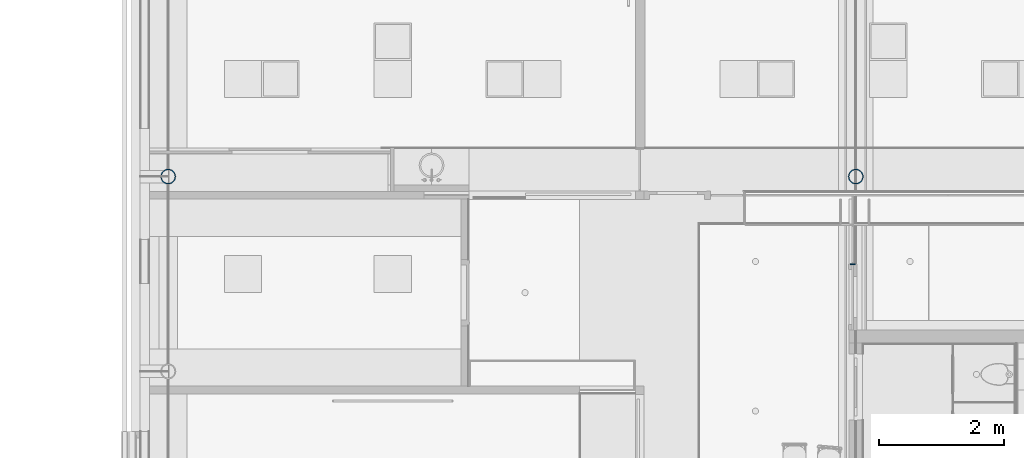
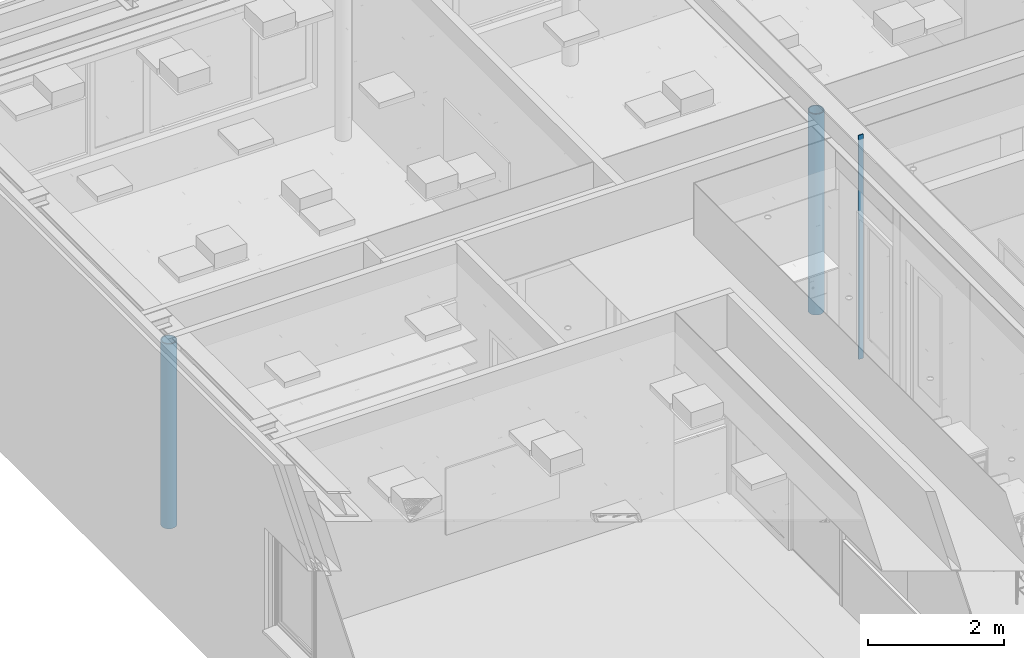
# One storey, part 12 of 260: 3 columns.
"""IFC2X3 building model written with IfcOpenShell, lengths in millimetres."""

from ifc_helpers import new_model, entity, si_unit, converted_unit, derived_unit, money_unit, direction, frame, origin_with_axes, place, context, subcontext, project, spatial, faceted_brep, material, type_object, element, save


model = new_model("IFC2X3")

# Units and contexts
model_context = context("Model", 3, precision=0.01, world=origin_with_axes(), true_north=direction((0.0, 1.0)))
plan_context = context("Plan", 3, precision=0.01, world=origin_with_axes(), true_north=direction((0.0, 1.0)))
body_context = subcontext(model_context, "Body", "Model", "MODEL_VIEW")
ifc_project = project(units=[si_unit("LENGTHUNIT", "METRE", prefix="MILLI"), si_unit("AREAUNIT", "SQUARE_METRE"), si_unit("VOLUMEUNIT", "CUBIC_METRE"), converted_unit("PLANEANGLEUNIT", "DEGREE", entity("IfcPlaneAngleMeasure", 0.0174532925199), si_unit("PLANEANGLEUNIT", "RADIAN"), dimensions=[0, 0, 0, 0, 0, 0, 0]), money_unit("EUR"), converted_unit("TIMEUNIT", "Year", entity("IfcTimeMeasure", 31556926.0), si_unit("TIMEUNIT", "SECOND"), dimensions=[0, 0, 1, 0, 0, 0, 0]), si_unit("MASSUNIT", "GRAM", prefix="KILO"), si_unit("THERMODYNAMICTEMPERATUREUNIT", "DEGREE_CELSIUS"), si_unit("LUMINOUSINTENSITYUNIT", "LUMEN"), si_unit("ENERGYUNIT", "JOULE", prefix="MEGA"), derived_unit("THERMALCONDUCTANCEUNIT", [(si_unit("POWERUNIT", "WATT"), 1), (si_unit("LENGTHUNIT", "METRE"), -1), (si_unit("THERMODYNAMICTEMPERATUREUNIT", "KELVIN"), -1)]), derived_unit("SPECIFICHEATCAPACITYUNIT", [(si_unit("ENERGYUNIT", "JOULE"), 1), (si_unit("MASSUNIT", "GRAM", prefix="KILO"), -1), (si_unit("THERMODYNAMICTEMPERATUREUNIT", "KELVIN"), -1)]), derived_unit("MASSDENSITYUNIT", [(si_unit("MASSUNIT", "GRAM", prefix="KILO"), 1), (si_unit("VOLUMEUNIT", "CUBIC_METRE"), -1)])], contexts=[model_context, plan_context])

# Site, building, storey
site_placement = place(None, origin_with_axes())
site = spatial("IfcSite", under=ifc_project, at=site_placement, Name="Site", CompositionType="ELEMENT")
building_placement = place(site_placement, origin_with_axes())
building = spatial("IfcBuilding", under=site, at=building_placement, Name="Naam gebouw", CompositionType="ELEMENT")
storey_placement = place(building_placement, frame((0.0, 0.0, 3960.0), z_axis=(0.0, 0.0, 1.0), x_axis=(1.0, 0.0, 0.0)))
storey = spatial("IfcBuildingStorey", under=building, at=storey_placement, Name="verdieping", CompositionType="ELEMENT", Elevation=3960.0)

# Columns
ifc_material = material(Name="Metaal - Staal C wit")
column_type_1 = type_object("IfcColumnType", Name="Lucht D245", PredefinedType="COLUMN")
column_1_placement = place(storey_placement, frame((35605.0, 39325.0, -80.0), z_axis=(0.0, 0.0, 1.0), x_axis=(1.0, 0.0, 0.0)))
element("IfcColumn", 1, at=column_1_placement, inside=storey, type_object=column_type_1, material=ifc_material, Name="28_kolom ø 273mm", ObjectType="COLUMN", context=body_context, shape_type="Brep", body=[
    faceted_brep([(119.184937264, 27.2031841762, 0.0), (110.143444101, 53.0422871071, 0.0), (110.143444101, 53.0422871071, 3620.0), (119.184937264, 27.2031841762, 3620.0), (122.25, 0.0, 0.0), (119.184937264, -27.2031841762, 0.0), (110.143444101, -53.0422871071, 0.0), (95.5788987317, -76.2216282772, 0.0), (76.2216282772, -95.5788987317, 0.0), (53.0422871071, -110.143444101, 0.0), (27.2031841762, -119.184937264, 0.0), (0.0, -122.25, 0.0), (-27.2031841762, -119.184937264, 0.0), (-53.0422871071, -110.143444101, 0.0), (-76.2216282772, -95.5788987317, 0.0), (-95.5788987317, -76.2216282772, 0.0), (-110.143444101, -53.0422871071, 0.0), (-119.184937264, -27.2031841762, 0.0), (-122.25, 0.0, 0.0), (-119.184937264, 27.2031841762, 0.0), (-110.143444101, 53.0422871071, 0.0), (-95.5788987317, 76.2216282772, 0.0), (-76.2216282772, 95.5788987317, 0.0), (-53.0422871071, 110.143444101, 0.0), (-27.2031841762, 119.184937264, 0.0), (0.0, 122.25, 0.0), (27.2031841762, 119.184937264, 0.0), (53.0422871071, 110.143444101, 0.0), (76.2216282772, 95.5788987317, 0.0), (95.5788987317, 76.2216282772, 0.0), (102.629619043, -27.4995235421, 0.0), (106.25, 0.0, 0.0), (102.629619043, 27.4995235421, 0.0), (92.0151991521, 53.125, 0.0), (75.1300955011, 75.1300955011, 0.0), (53.125, 92.0151991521, 0.0), (27.4995235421, 102.629619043, 0.0), (0.0, 106.25, 0.0), (-27.4995235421, 102.629619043, 0.0), (-53.125, 92.0151991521, 0.0), (-75.1300955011, 75.1300955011, 0.0), (-92.0151991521, 53.125, 0.0), (-102.629619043, 27.4995235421, 0.0), (-106.25, 0.0, 0.0), (-102.629619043, -27.4995235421, 0.0), (-92.0151991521, -53.125, 0.0), (-75.1300955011, -75.1300955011, 0.0), (-53.125, -92.0151991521, 0.0), (-27.4995235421, -102.629619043, 0.0), (0.0, -106.25, 0.0), (27.4995235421, -102.629619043, 0.0), (53.125, -92.0151991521, 0.0), (75.1300955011, -75.1300955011, 0.0), (92.0151991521, -53.125, 0.0), (95.5788987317, 76.2216282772, 3620.0), (76.2216282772, 95.5788987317, 3620.0), (53.0422871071, 110.143444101, 3620.0), (27.2031841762, 119.184937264, 3620.0), (0.0, 122.25, 3620.0), (-27.2031841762, 119.184937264, 3620.0), (-53.0422871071, 110.143444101, 3620.0), (-76.2216282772, 95.5788987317, 3620.0), (-95.5788987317, 76.2216282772, 3620.0), (-110.143444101, 53.0422871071, 3620.0), (-119.184937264, 27.2031841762, 3620.0), (-122.25, 0.0, 3620.0), (-119.184937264, -27.2031841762, 3620.0), (-110.143444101, -53.0422871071, 3620.0), (-95.5788987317, -76.2216282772, 3620.0), (-76.2216282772, -95.5788987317, 3620.0), (-53.0422871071, -110.143444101, 3620.0), (-27.2031841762, -119.184937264, 3620.0), (0.0, -122.25, 3620.0), (27.2031841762, -119.184937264, 3620.0), (53.0422871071, -110.143444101, 3620.0), (76.2216282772, -95.5788987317, 3620.0), (95.5788987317, -76.2216282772, 3620.0), (110.143444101, -53.0422871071, 3620.0), (119.184937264, -27.2031841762, 3620.0), (122.25, 0.0, 3620.0), (102.629619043, -27.4995235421, 3620.0), (92.0151991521, -53.125, 3620.0), (75.1300955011, -75.1300955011, 3620.0), (53.125, -92.0151991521, 3620.0), (27.4995235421, -102.629619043, 3620.0), (0.0, -106.25, 3620.0), (-27.4995235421, -102.629619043, 3620.0), (-53.125, -92.0151991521, 3620.0), (-75.1300955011, -75.1300955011, 3620.0), (-92.0151991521, -53.125, 3620.0), (-102.629619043, -27.4995235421, 3620.0), (-106.25, 0.0, 3620.0), (-102.629619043, 27.4995235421, 3620.0), (-92.0151991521, 53.125, 3620.0), (-75.1300955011, 75.1300955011, 3620.0), (-53.125, 92.0151991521, 3620.0), (-27.4995235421, 102.629619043, 3620.0), (0.0, 106.25, 3620.0), (27.4995235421, 102.629619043, 3620.0), (53.125, 92.0151991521, 3620.0), (75.1300955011, 75.1300955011, 3620.0), (92.0151991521, 53.125, 3620.0), (102.629619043, 27.4995235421, 3620.0), (106.25, 0.0, 3620.0)], [[[0, 1, 2, 3]], [[0, 4, 5, 6, 7, 8, 9, 10, 11, 12, 13, 14, 15, 16, 17, 18, 19, 20, 21, 22, 23, 24, 25, 26, 27, 28, 29, 1], [30, 31, 32, 33, 34, 35, 36, 37, 38, 39, 40, 41, 42, 43, 44, 45, 46, 47, 48, 49, 50, 51, 52, 53]], [[1, 29, 54, 2]], [[3, 2, 54, 55, 56, 57, 58, 59, 60, 61, 62, 63, 64, 65, 66, 67, 68, 69, 70, 71, 72, 73, 74, 75, 76, 77, 78, 79], [80, 81, 82, 83, 84, 85, 86, 87, 88, 89, 90, 91, 92, 93, 94, 95, 96, 97, 98, 99, 100, 101, 102, 103]], [[4, 0, 3, 79]], [[5, 4, 79, 78]], [[6, 5, 78, 77]], [[7, 6, 77, 76]], [[8, 7, 76, 75]], [[9, 8, 75, 74]], [[10, 9, 74, 73]], [[11, 10, 73, 72]], [[12, 11, 72, 71]], [[13, 12, 71, 70]], [[14, 13, 70, 69]], [[15, 14, 69, 68]], [[16, 15, 68, 67]], [[17, 16, 67, 66]], [[18, 17, 66, 65]], [[19, 18, 65, 64]], [[20, 19, 64, 63]], [[21, 20, 63, 62]], [[22, 21, 62, 61]], [[23, 22, 61, 60]], [[24, 23, 60, 59]], [[25, 24, 59, 58]], [[26, 25, 58, 57]], [[27, 26, 57, 56]], [[28, 27, 56, 55]], [[29, 28, 55, 54]], [[31, 30, 80, 103]], [[32, 31, 103, 102]], [[33, 32, 102, 101]], [[34, 33, 101, 100]], [[35, 34, 100, 99]], [[36, 35, 99, 98]], [[37, 36, 98, 97]], [[38, 37, 97, 96]], [[39, 38, 96, 95]], [[40, 39, 95, 94]], [[41, 40, 94, 93]], [[42, 41, 93, 92]], [[43, 42, 92, 91]], [[44, 43, 91, 90]], [[45, 44, 90, 89]], [[46, 45, 89, 88]], [[47, 46, 88, 87]], [[48, 47, 87, 86]], [[49, 48, 86, 85]], [[50, 49, 85, 84]], [[51, 50, 84, 83]], [[52, 51, 83, 82]], [[53, 52, 82, 81]], [[30, 53, 81, 80]]]),
])
column_2_placement = place(storey_placement, frame((24575.0, 39325.0, -70.0), z_axis=(0.0, 0.0, 1.0), x_axis=(1.0, 0.0, 0.0)))
element("IfcColumn", 2, at=column_2_placement, inside=storey, type_object=column_type_1, material=ifc_material, Name="28_kolom ø 273mm", ObjectType="COLUMN", context=body_context, shape_type="Brep", body=[
    faceted_brep([(-122.25, 0.0, 0.0), (-119.184937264, -27.2031841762, 0.0), (-119.184937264, -27.2031841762, 3330.0), (-122.25, 0.0, 3330.0), (-119.184937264, 27.2031841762, 0.0), (-110.143444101, 53.0422871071, 0.0), (-95.5788987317, 76.2216282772, 0.0), (-76.2216282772, 95.5788987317, 0.0), (-53.0422871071, 110.143444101, 0.0), (-27.2031841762, 119.184937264, 0.0), (0.0, 122.25, 0.0), (27.2031841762, 119.184937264, 0.0), (53.0422871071, 110.143444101, 0.0), (76.2216282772, 95.5788987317, 0.0), (95.5788987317, 76.2216282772, 0.0), (110.143444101, 53.0422871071, 0.0), (119.184937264, 27.2031841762, 0.0), (122.25, 0.0, 0.0), (119.184937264, -27.2031841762, 0.0), (110.143444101, -53.0422871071, 0.0), (95.5788987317, -76.2216282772, 0.0), (76.2216282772, -95.5788987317, 0.0), (53.0422871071, -110.143444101, 0.0), (27.2031841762, -119.184937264, 0.0), (0.0, -122.25, 0.0), (-27.2031841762, -119.184937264, 0.0), (-53.0422871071, -110.143444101, 0.0), (-76.2216282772, -95.5788987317, 0.0), (-95.5788987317, -76.2216282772, 0.0), (-110.143444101, -53.0422871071, 0.0), (-106.25, 0.0, 0.0), (-102.629619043, -27.4995235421, 0.0), (-92.0151991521, -53.125, 0.0), (-75.1300955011, -75.1300955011, 0.0), (-53.125, -92.0151991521, 0.0), (-27.4995235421, -102.629619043, 0.0), (0.0, -106.25, 0.0), (27.4995235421, -102.629619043, 0.0), (53.125, -92.0151991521, 0.0), (75.1300955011, -75.1300955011, 0.0), (92.0151991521, -53.125, 0.0), (102.629619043, -27.4995235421, 0.0), (106.25, 0.0, 0.0), (102.629619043, 27.4995235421, 0.0), (92.0151991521, 53.125, 0.0), (75.1300955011, 75.1300955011, 0.0), (53.125, 92.0151991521, 0.0), (27.4995235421, 102.629619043, 0.0), (0.0, 106.25, 0.0), (-27.4995235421, 102.629619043, 0.0), (-53.125, 92.0151991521, 0.0), (-75.1300955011, 75.1300955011, 0.0), (-92.0151991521, 53.125, 0.0), (-102.629619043, 27.4995235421, 0.0), (-110.143444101, -53.0422871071, 3330.0), (-95.5788987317, -76.2216282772, 3330.0), (-76.2216282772, -95.5788987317, 3330.0), (-53.0422871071, -110.143444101, 3330.0), (-27.2031841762, -119.184937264, 3330.0), (0.0, -122.25, 3330.0), (27.2031841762, -119.184937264, 3330.0), (53.0422871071, -110.143444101, 3330.0), (76.2216282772, -95.5788987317, 3330.0), (95.5788987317, -76.2216282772, 3330.0), (110.143444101, -53.0422871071, 3330.0), (119.184937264, -27.2031841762, 3330.0), (122.25, 0.0, 3330.0), (119.184937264, 27.2031841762, 3330.0), (110.143444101, 53.0422871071, 3330.0), (95.5788987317, 76.2216282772, 3330.0), (76.2216282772, 95.5788987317, 3330.0), (53.0422871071, 110.143444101, 3330.0), (27.2031841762, 119.184937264, 3330.0), (0.0, 122.25, 3330.0), (-27.2031841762, 119.184937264, 3330.0), (-53.0422871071, 110.143444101, 3330.0), (-76.2216282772, 95.5788987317, 3330.0), (-95.5788987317, 76.2216282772, 3330.0), (-110.143444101, 53.0422871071, 3330.0), (-119.184937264, 27.2031841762, 3330.0), (-106.25, 0.0, 3330.0), (-102.629619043, 27.4995235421, 3330.0), (-92.0151991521, 53.125, 3330.0), (-75.1300955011, 75.1300955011, 3330.0), (-53.125, 92.0151991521, 3330.0), (-27.4995235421, 102.629619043, 3330.0), (0.0, 106.25, 3330.0), (27.4995235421, 102.629619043, 3330.0), (53.125, 92.0151991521, 3330.0), (75.1300955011, 75.1300955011, 3330.0), (92.0151991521, 53.125, 3330.0), (102.629619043, 27.4995235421, 3330.0), (106.25, 0.0, 3330.0), (102.629619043, -27.4995235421, 3330.0), (92.0151991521, -53.125, 3330.0), (75.1300955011, -75.1300955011, 3330.0), (53.125, -92.0151991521, 3330.0), (27.4995235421, -102.629619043, 3330.0), (0.0, -106.25, 3330.0), (-27.4995235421, -102.629619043, 3330.0), (-53.125, -92.0151991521, 3330.0), (-75.1300955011, -75.1300955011, 3330.0), (-92.0151991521, -53.125, 3330.0), (-102.629619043, -27.4995235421, 3330.0)], [[[0, 1, 2, 3]], [[0, 4, 5, 6, 7, 8, 9, 10, 11, 12, 13, 14, 15, 16, 17, 18, 19, 20, 21, 22, 23, 24, 25, 26, 27, 28, 29, 1], [30, 31, 32, 33, 34, 35, 36, 37, 38, 39, 40, 41, 42, 43, 44, 45, 46, 47, 48, 49, 50, 51, 52, 53]], [[1, 29, 54, 2]], [[3, 2, 54, 55, 56, 57, 58, 59, 60, 61, 62, 63, 64, 65, 66, 67, 68, 69, 70, 71, 72, 73, 74, 75, 76, 77, 78, 79], [80, 81, 82, 83, 84, 85, 86, 87, 88, 89, 90, 91, 92, 93, 94, 95, 96, 97, 98, 99, 100, 101, 102, 103]], [[4, 0, 3, 79]], [[5, 4, 79, 78]], [[6, 5, 78, 77]], [[7, 6, 77, 76]], [[8, 7, 76, 75]], [[9, 8, 75, 74]], [[10, 9, 74, 73]], [[11, 10, 73, 72]], [[12, 11, 72, 71]], [[13, 12, 71, 70]], [[14, 13, 70, 69]], [[15, 14, 69, 68]], [[16, 15, 68, 67]], [[17, 16, 67, 66]], [[18, 17, 66, 65]], [[19, 18, 65, 64]], [[20, 19, 64, 63]], [[21, 20, 63, 62]], [[22, 21, 62, 61]], [[23, 22, 61, 60]], [[24, 23, 60, 59]], [[25, 24, 59, 58]], [[26, 25, 58, 57]], [[27, 26, 57, 56]], [[28, 27, 56, 55]], [[29, 28, 55, 54]], [[31, 30, 80, 103]], [[32, 31, 103, 102]], [[33, 32, 102, 101]], [[34, 33, 101, 100]], [[35, 34, 100, 99]], [[36, 35, 99, 98]], [[37, 36, 98, 97]], [[38, 37, 97, 96]], [[39, 38, 96, 95]], [[40, 39, 95, 94]], [[41, 40, 94, 93]], [[42, 41, 93, 92]], [[43, 42, 92, 91]], [[44, 43, 91, 90]], [[45, 44, 90, 89]], [[46, 45, 89, 88]], [[47, 46, 88, 87]], [[48, 47, 87, 86]], [[49, 48, 86, 85]], [[50, 49, 85, 84]], [[51, 50, 84, 83]], [[52, 51, 83, 82]], [[53, 52, 82, 81]], [[30, 53, 81, 80]]]),
])
column_type_2 = type_object("IfcColumnType", Name="Metaal - Staal C wit 80 x 15", PredefinedType="COLUMN")
column_3_placement = place(storey_placement, frame((35557.5, 37920.0, -80.0), z_axis=(0.0, 0.0, 1.0), x_axis=(1.0, 0.0, 0.0)))
element("IfcColumn", 3, at=column_3_placement, inside=storey, type_object=column_type_2, material=ifc_material, Name="28_kolom koker", ObjectType="COLUMN", context=body_context, shape_type="Brep", body=[
    faceted_brep([(-40.0, -7.5, 4040.0), (-40.0, -7.5, 0.0), (40.0, -7.5, 0.0), (40.0, -7.5, 4040.0), (-40.0, 7.5, 4040.0), (-40.0, 7.5, 0.0), (40.0, 7.5, 0.0), (40.0, 7.5, 4040.0)], [[[0, 1, 2, 3]], [[4, 5, 1, 0]], [[2, 1, 5, 6]], [[3, 2, 6, 7]], [[4, 0, 3, 7]], [[7, 6, 5, 4]]]),
])

save(model, "model.ifc")
